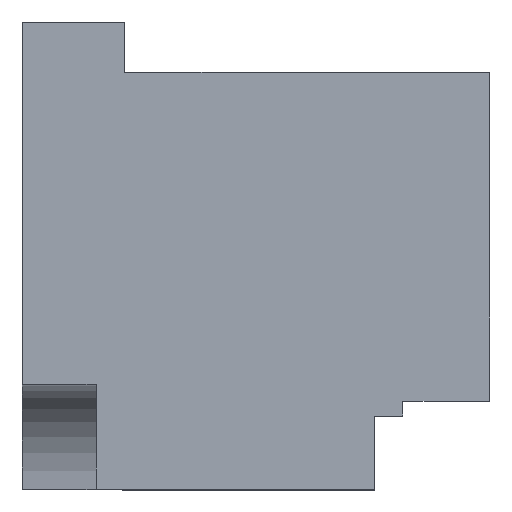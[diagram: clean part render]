
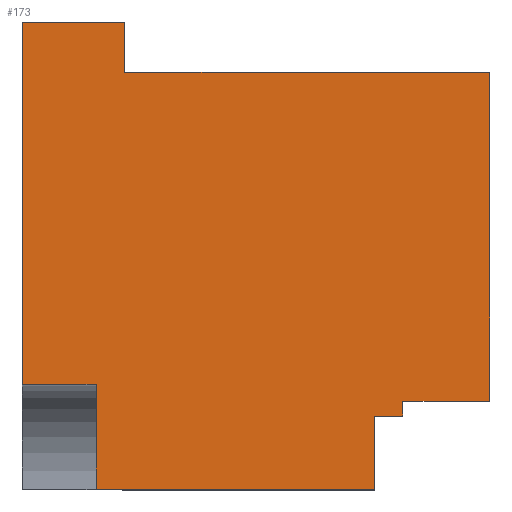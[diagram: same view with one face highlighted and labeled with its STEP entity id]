
A CAD part, top view. The second image highlights one B-rep face of the part: STEP entity #173.
In plain terms, the highlighted planar face has unit normal (0, 0, 1).
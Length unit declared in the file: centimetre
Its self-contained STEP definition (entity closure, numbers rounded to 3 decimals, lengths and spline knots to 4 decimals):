
#2 = VERTEX_POINT ( 'NONE', #282 ) ;
#3 = PLANE ( 'NONE',  #641 ) ;
#4 = CARTESIAN_POINT ( 'NONE',  ( 0., 1000., 1000. ) ) ;
#11 = CARTESIAN_POINT ( 'NONE',  ( 0., 1000., 1000. ) ) ;
#12 = LINE ( 'NONE', #714, #13 ) ;
#13 = VECTOR ( 'NONE', #149, 100. ) ;
#18 = LINE ( 'NONE', #697, #536 ) ;
#31 = CARTESIAN_POINT ( 'NONE',  ( 814.2526, 68.2553, 1000. ) ) ;
#49 = VERTEX_POINT ( 'NONE', #297 ) ;
#52 = ORIENTED_EDGE ( 'NONE', *, *, #239, .F. ) ;
#54 = EDGE_CURVE ( 'NONE', #862, #479, #231, .T. ) ;
#68 = DIRECTION ( 'NONE',  ( 0., -1., 0. ) ) ;
#105 = ORIENTED_EDGE ( 'NONE', *, *, #281, .F. ) ;
#114 = ORIENTED_EDGE ( 'NONE', *, *, #644, .T. ) ;
#121 = EDGE_CURVE ( 'NONE', #403, #422, #773, .T. ) ;
#137 = CARTESIAN_POINT ( 'NONE',  ( 1000., 188.3849, 1000. ) ) ;
#139 = DIRECTION ( 'NONE',  ( 1., 0., 0. ) ) ;
#141 = VECTOR ( 'NONE', #860, 100. ) ;
#149 = DIRECTION ( 'NONE',  ( -1., 0., 0. ) ) ;
#150 = EDGE_CURVE ( 'NONE', #884, #422, #170, .T. ) ;
#152 = DIRECTION ( 'NONE',  ( 0., 1., 0. ) ) ;
#162 = FACE_OUTER_BOUND ( 'NONE', #484, .T. ) ;
#168 = CARTESIAN_POINT ( 'NONE',  ( 814.2526, 188.3849, 1000. ) ) ;
#169 = CARTESIAN_POINT ( 'NONE',  ( 814.2526, 156.4363, 1000. ) ) ;
#170 = LINE ( 'NONE', #583, #141 ) ;
#173 = ADVANCED_FACE ( 'NONE', ( #162 ), #3, .T. ) ;
#178 = CARTESIAN_POINT ( 'NONE',  ( 1000., 891.92, 1000. ) ) ;
#204 = LINE ( 'NONE', #478, #344 ) ;
#210 = DIRECTION ( 'NONE',  ( 0., 0., 1. ) ) ;
#214 = EDGE_CURVE ( 'NONE', #49, #877, #646, .T. ) ;
#220 = ORIENTED_EDGE ( 'NONE', *, *, #830, .T. ) ;
#222 = EDGE_CURVE ( 'NONE', #527, #479, #18, .T. ) ;
#226 = CARTESIAN_POINT ( 'NONE',  ( 1000., 1000., 1000. ) ) ;
#231 = LINE ( 'NONE', #31, #566 ) ;
#232 = ORIENTED_EDGE ( 'NONE', *, *, #54, .F. ) ;
#239 = EDGE_CURVE ( 'NONE', #403, #862, #12, .T. ) ;
#254 = VECTOR ( 'NONE', #329, 100. ) ;
#255 = VERTEX_POINT ( 'NONE', #571 ) ;
#264 = VERTEX_POINT ( 'NONE', #490 ) ;
#281 = EDGE_CURVE ( 'NONE', #527, #2, #406, .T. ) ;
#282 = CARTESIAN_POINT ( 'NONE',  ( 752.9066, 0., 1000. ) ) ;
#287 = DIRECTION ( 'NONE',  ( -1., 0., 0. ) ) ;
#297 = CARTESIAN_POINT ( 'NONE',  ( 157.7034, 224.6139, 1000. ) ) ;
#305 = CARTESIAN_POINT ( 'NONE',  ( 219.2582, 891.92, 1000. ) ) ;
#308 = CARTESIAN_POINT ( 'NONE',  ( 752.9066, 156.4363, 1000. ) ) ;
#329 = DIRECTION ( 'NONE',  ( 1., 0., 0. ) ) ;
#334 = VECTOR ( 'NONE', #466, 100. ) ;
#344 = VECTOR ( 'NONE', #68, 100. ) ;
#351 = ORIENTED_EDGE ( 'NONE', *, *, #627, .F. ) ;
#373 = EDGE_CURVE ( 'NONE', #264, #884, #204, .T. ) ;
#396 = EDGE_CURVE ( 'NONE', #264, #625, #569, .T. ) ;
#400 = CARTESIAN_POINT ( 'NONE',  ( 0., 0., 1000. ) ) ;
#403 = VERTEX_POINT ( 'NONE', #137 ) ;
#406 = LINE ( 'NONE', #409, #784 ) ;
#409 = CARTESIAN_POINT ( 'NONE',  ( 752.9066, 0., 1000. ) ) ;
#422 = VERTEX_POINT ( 'NONE', #178 ) ;
#423 = CARTESIAN_POINT ( 'NONE',  ( 0., 0., 1000. ) ) ;
#463 = LINE ( 'NONE', #747, #334 ) ;
#466 = DIRECTION ( 'NONE',  ( -1., 0., 0. ) ) ;
#478 = CARTESIAN_POINT ( 'NONE',  ( 219.2582, 1000., 1000. ) ) ;
#479 = VERTEX_POINT ( 'NONE', #169 ) ;
#484 = EDGE_LOOP ( 'NONE', ( #232, #52, #870, #513, #653, #855, #220, #351, #737, #114, #105, #518 ) ) ;
#490 = CARTESIAN_POINT ( 'NONE',  ( 219.2582, 1000., 1000. ) ) ;
#513 = ORIENTED_EDGE ( 'NONE', *, *, #150, .F. ) ;
#518 = ORIENTED_EDGE ( 'NONE', *, *, #222, .T. ) ;
#527 = VERTEX_POINT ( 'NONE', #308 ) ;
#536 = VECTOR ( 'NONE', #139, 100. ) ;
#559 = CARTESIAN_POINT ( 'NONE',  ( 157.7034, 0., 1000. ) ) ;
#566 = VECTOR ( 'NONE', #722, 100. ) ;
#569 = LINE ( 'NONE', #11, #859 ) ;
#571 = CARTESIAN_POINT ( 'NONE',  ( 0., 224.6139, 1000. ) ) ;
#583 = CARTESIAN_POINT ( 'NONE',  ( 219.2582, 891.92, 1000. ) ) ;
#625 = VERTEX_POINT ( 'NONE', #689 ) ;
#627 = EDGE_CURVE ( 'NONE', #49, #255, #463, .T. ) ;
#628 = LINE ( 'NONE', #4, #746 ) ;
#638 = DIRECTION ( 'NONE',  ( 1., 0., 0. ) ) ;
#641 = AXIS2_PLACEMENT_3D ( 'NONE', #423, #210, #638 ) ;
#644 = EDGE_CURVE ( 'NONE', #877, #2, #685, .T. ) ;
#646 = LINE ( 'NONE', #559, #803 ) ;
#651 = CARTESIAN_POINT ( 'NONE',  ( 157.7034, 0., 1000. ) ) ;
#653 = ORIENTED_EDGE ( 'NONE', *, *, #373, .F. ) ;
#685 = LINE ( 'NONE', #400, #254 ) ;
#689 = CARTESIAN_POINT ( 'NONE',  ( 0., 1000., 1000. ) ) ;
#697 = CARTESIAN_POINT ( 'NONE',  ( 752.9066, 156.4363, 1000. ) ) ;
#714 = CARTESIAN_POINT ( 'NONE',  ( 814.2526, 188.3849, 1000. ) ) ;
#722 = DIRECTION ( 'NONE',  ( 0., -1., 0. ) ) ;
#737 = ORIENTED_EDGE ( 'NONE', *, *, #214, .T. ) ;
#746 = VECTOR ( 'NONE', #847, 100. ) ;
#747 = CARTESIAN_POINT ( 'NONE',  ( 157.7034, 224.6139, 1000. ) ) ;
#765 = DIRECTION ( 'NONE',  ( 0., -1., 0. ) ) ;
#773 = LINE ( 'NONE', #226, #840 ) ;
#784 = VECTOR ( 'NONE', #827, 100. ) ;
#803 = VECTOR ( 'NONE', #765, 100. ) ;
#827 = DIRECTION ( 'NONE',  ( 0., -1., 0. ) ) ;
#830 = EDGE_CURVE ( 'NONE', #625, #255, #628, .T. ) ;
#840 = VECTOR ( 'NONE', #152, 100. ) ;
#847 = DIRECTION ( 'NONE',  ( 0., -1., 0. ) ) ;
#855 = ORIENTED_EDGE ( 'NONE', *, *, #396, .T. ) ;
#859 = VECTOR ( 'NONE', #287, 100. ) ;
#860 = DIRECTION ( 'NONE',  ( 1., 0., 0. ) ) ;
#862 = VERTEX_POINT ( 'NONE', #168 ) ;
#870 = ORIENTED_EDGE ( 'NONE', *, *, #121, .T. ) ;
#877 = VERTEX_POINT ( 'NONE', #651 ) ;
#884 = VERTEX_POINT ( 'NONE', #305 ) ;
